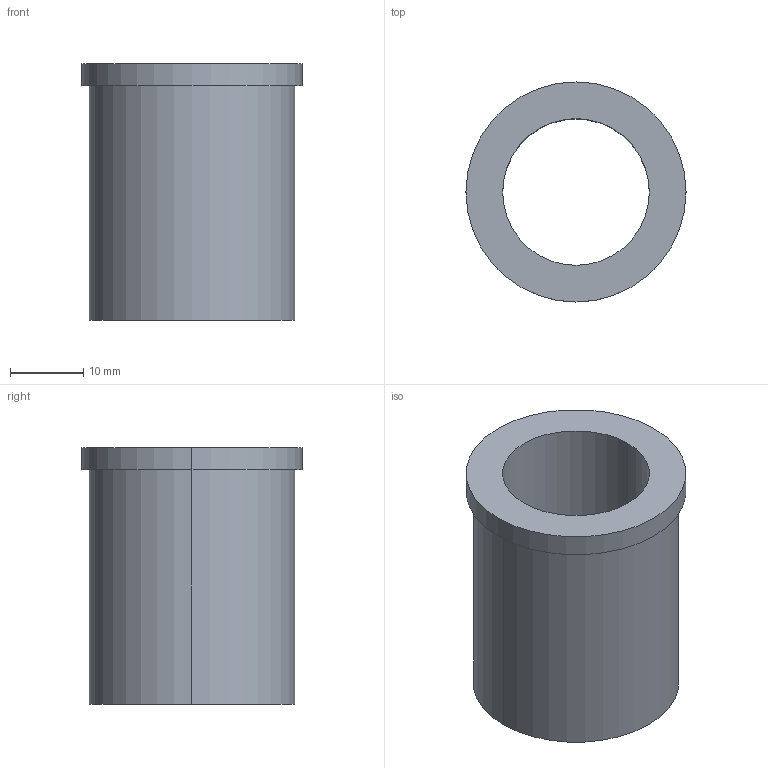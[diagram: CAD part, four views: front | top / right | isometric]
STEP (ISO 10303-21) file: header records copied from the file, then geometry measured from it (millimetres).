
FILE_DESCRIPTION(/* description */ (''),/* implementation_level */ '2;1');
FILE_NAME(/* name */ '3d_tgbf20-35_00365_r00.stp',/* time_stamp */ '2011-01-10T14:09:04+09:00',/* author */ ('MISUMI'),/* organization */ (''),/* preprocessor_version */ 'ST-DEVELOPER v11',/* originating_system */ 'UGS - NX 5.0',/* authorisation */ '');
FILE_SCHEMA (('CONFIG_CONTROL_DESIGN'));
Length unit declared in the file: millimetre
Products named in the file (1): 3d_tgbf20-35_00365_r00
Bounding box: 30 x 30 x 35 mm (x, y, z)
Volume: 10829.1 mm3; surface area: 6082.1 mm2
Topology: 1 solids, 1 shells, 9 faces, 18 edges, 12 vertices
Faces by surface type: cylinder 6, plane 3
Entity records: 334 total; most frequent: DIRECTION 50, CARTESIAN_POINT 40, ORIENTED_EDGE 36, AXIS2_PLACEMENT_3D 22, EDGE_CURVE 18, EDGE_LOOP 12, CIRCLE 12, VERTEX_POINT 12
